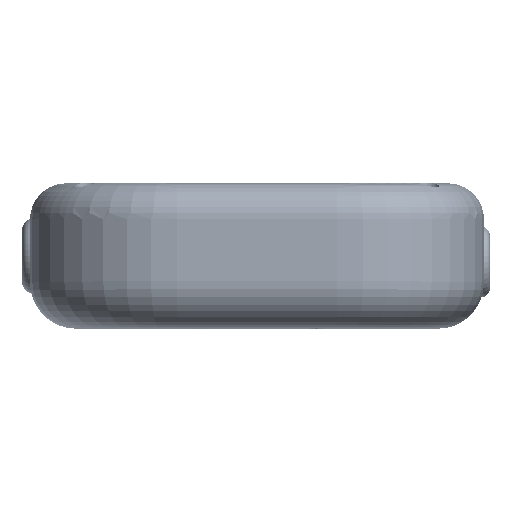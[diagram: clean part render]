
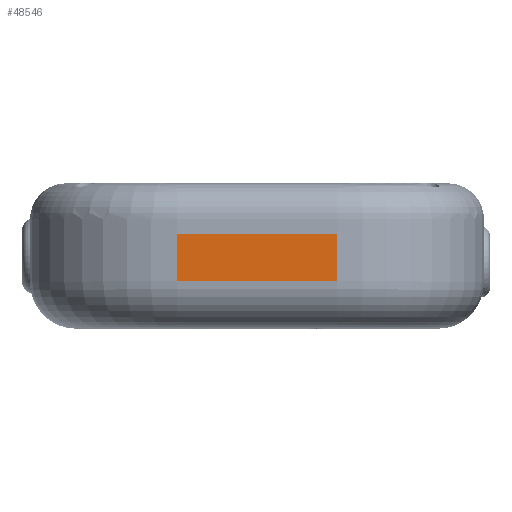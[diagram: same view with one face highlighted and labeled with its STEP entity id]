
A CAD part, top view. The second image highlights one B-rep face of the part: STEP entity #48546.
In plain terms, the highlighted planar face has unit normal (0, 0, 1).
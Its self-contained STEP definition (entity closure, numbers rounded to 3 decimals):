
#43469 = CYLINDRICAL_SURFACE('',#43470,9.2);
#43470 = AXIS2_PLACEMENT_3D('',#43471,#43472,#43473);
#43471 = CARTESIAN_POINT('',(16.,-5.2,67.));
#43472 = DIRECTION('',(-1.,-0.,-0.));
#43473 = DIRECTION('',(0.,-1.,0.));
#43993 = VERTEX_POINT('',#43994);
#43994 = CARTESIAN_POINT('',(-16.,-5.2,76.2));
#44009 = CYLINDRICAL_SURFACE('',#44010,29.2);
#44010 = AXIS2_PLACEMENT_3D('',#44011,#44012,#44013);
#44011 = CARTESIAN_POINT('',(-16.,-14.4,47.));
#44012 = DIRECTION('',(0.,1.,0.));
#44013 = DIRECTION('',(-1.,0.,0.));
#44091 = PLANE('',#44092);
#44092 = AXIS2_PLACEMENT_3D('',#44093,#44094,#44095);
#44093 = CARTESIAN_POINT('',(0.,4.2,0.));
#44094 = DIRECTION('',(0.,1.,0.));
#44095 = DIRECTION('',(0.,-0.,1.));
#46229 = VERTEX_POINT('',#46230);
#46230 = CARTESIAN_POINT('',(16.,-5.2,76.2));
#46245 = CYLINDRICAL_SURFACE('',#46246,29.2);
#46246 = AXIS2_PLACEMENT_3D('',#46247,#46248,#46249);
#46247 = CARTESIAN_POINT('',(16.,-14.4,47.));
#46248 = DIRECTION('',(0.,1.,0.));
#46249 = DIRECTION('',(1.,0.,-0.));
#46283 = EDGE_CURVE('',#46229,#43993,#46284,.T.);
#46284 = SURFACE_CURVE('',#46285,(#46289,#46296),.PCURVE_S1.);
#46285 = LINE('',#46286,#46287);
#46286 = CARTESIAN_POINT('',(16.,-5.2,76.2));
#46287 = VECTOR('',#46288,1.);
#46288 = DIRECTION('',(-1.,-0.,-0.));
#46289 = PCURVE('',#43469,#46290);
#46290 = DEFINITIONAL_REPRESENTATION('',(#46291),#46295);
#46291 = LINE('',#46292,#46293);
#46292 = CARTESIAN_POINT('',(1.571,0.));
#46293 = VECTOR('',#46294,1.);
#46294 = DIRECTION('',(0.,1.));
#46295 = ( GEOMETRIC_REPRESENTATION_CONTEXT(2) 
PARAMETRIC_REPRESENTATION_CONTEXT() REPRESENTATION_CONTEXT('2D SPACE',''
  ) );
#46296 = PCURVE('',#46297,#46302);
#46297 = PLANE('',#46298);
#46298 = AXIS2_PLACEMENT_3D('',#46299,#46300,#46301);
#46299 = CARTESIAN_POINT('',(-45.2,-14.4,76.2));
#46300 = DIRECTION('',(0.,0.,1.));
#46301 = DIRECTION('',(1.,0.,-0.));
#46302 = DEFINITIONAL_REPRESENTATION('',(#46303),#46307);
#46303 = LINE('',#46304,#46305);
#46304 = CARTESIAN_POINT('',(61.2,9.2));
#46305 = VECTOR('',#46306,1.);
#46306 = DIRECTION('',(-1.,0.));
#46307 = ( GEOMETRIC_REPRESENTATION_CONTEXT(2) 
PARAMETRIC_REPRESENTATION_CONTEXT() REPRESENTATION_CONTEXT('2D SPACE',''
  ) );
#46694 = EDGE_CURVE('',#43993,#46695,#46697,.T.);
#46695 = VERTEX_POINT('',#46696);
#46696 = CARTESIAN_POINT('',(-16.,4.2,76.2));
#46697 = SURFACE_CURVE('',#46698,(#46702,#46709),.PCURVE_S1.);
#46698 = LINE('',#46699,#46700);
#46699 = CARTESIAN_POINT('',(-16.,-14.4,76.2));
#46700 = VECTOR('',#46701,1.);
#46701 = DIRECTION('',(0.,1.,0.));
#46702 = PCURVE('',#44009,#46703);
#46703 = DEFINITIONAL_REPRESENTATION('',(#46704),#46708);
#46704 = LINE('',#46705,#46706);
#46705 = CARTESIAN_POINT('',(1.571,0.));
#46706 = VECTOR('',#46707,1.);
#46707 = DIRECTION('',(0.,1.));
#46708 = ( GEOMETRIC_REPRESENTATION_CONTEXT(2) 
PARAMETRIC_REPRESENTATION_CONTEXT() REPRESENTATION_CONTEXT('2D SPACE',''
  ) );
#46709 = PCURVE('',#46297,#46710);
#46710 = DEFINITIONAL_REPRESENTATION('',(#46711),#46715);
#46711 = LINE('',#46712,#46713);
#46712 = CARTESIAN_POINT('',(29.2,0.));
#46713 = VECTOR('',#46714,1.);
#46714 = DIRECTION('',(0.,1.));
#46715 = ( GEOMETRIC_REPRESENTATION_CONTEXT(2) 
PARAMETRIC_REPRESENTATION_CONTEXT() REPRESENTATION_CONTEXT('2D SPACE',''
  ) );
#46746 = EDGE_CURVE('',#46747,#46695,#46749,.T.);
#46747 = VERTEX_POINT('',#46748);
#46748 = CARTESIAN_POINT('',(16.,4.2,76.2));
#46749 = SURFACE_CURVE('',#46750,(#46754,#46761),.PCURVE_S1.);
#46750 = LINE('',#46751,#46752);
#46751 = CARTESIAN_POINT('',(-22.6,4.2,76.2));
#46752 = VECTOR('',#46753,1.);
#46753 = DIRECTION('',(-1.,0.,0.));
#46754 = PCURVE('',#44091,#46755);
#46755 = DEFINITIONAL_REPRESENTATION('',(#46756),#46760);
#46756 = LINE('',#46757,#46758);
#46757 = CARTESIAN_POINT('',(76.2,-22.6));
#46758 = VECTOR('',#46759,1.);
#46759 = DIRECTION('',(0.,-1.));
#46760 = ( GEOMETRIC_REPRESENTATION_CONTEXT(2) 
PARAMETRIC_REPRESENTATION_CONTEXT() REPRESENTATION_CONTEXT('2D SPACE',''
  ) );
#46761 = PCURVE('',#46297,#46762);
#46762 = DEFINITIONAL_REPRESENTATION('',(#46763),#46767);
#46763 = LINE('',#46764,#46765);
#46764 = CARTESIAN_POINT('',(22.6,18.6));
#46765 = VECTOR('',#46766,1.);
#46766 = DIRECTION('',(-1.,0.));
#46767 = ( GEOMETRIC_REPRESENTATION_CONTEXT(2) 
PARAMETRIC_REPRESENTATION_CONTEXT() REPRESENTATION_CONTEXT('2D SPACE',''
  ) );
#48524 = EDGE_CURVE('',#46229,#46747,#48525,.T.);
#48525 = SURFACE_CURVE('',#48526,(#48530,#48537),.PCURVE_S1.);
#48526 = LINE('',#48527,#48528);
#48527 = CARTESIAN_POINT('',(16.,-14.4,76.2));
#48528 = VECTOR('',#48529,1.);
#48529 = DIRECTION('',(0.,1.,0.));
#48530 = PCURVE('',#46245,#48531);
#48531 = DEFINITIONAL_REPRESENTATION('',(#48532),#48536);
#48532 = LINE('',#48533,#48534);
#48533 = CARTESIAN_POINT('',(4.712,0.));
#48534 = VECTOR('',#48535,1.);
#48535 = DIRECTION('',(-0.,1.));
#48536 = ( GEOMETRIC_REPRESENTATION_CONTEXT(2) 
PARAMETRIC_REPRESENTATION_CONTEXT() REPRESENTATION_CONTEXT('2D SPACE',''
  ) );
#48537 = PCURVE('',#46297,#48538);
#48538 = DEFINITIONAL_REPRESENTATION('',(#48539),#48543);
#48539 = LINE('',#48540,#48541);
#48540 = CARTESIAN_POINT('',(61.2,0.));
#48541 = VECTOR('',#48542,1.);
#48542 = DIRECTION('',(0.,1.));
#48543 = ( GEOMETRIC_REPRESENTATION_CONTEXT(2) 
PARAMETRIC_REPRESENTATION_CONTEXT() REPRESENTATION_CONTEXT('2D SPACE',''
  ) );
#48546 = ADVANCED_FACE('',(#48547),#46297,.T.);
#48547 = FACE_BOUND('',#48548,.T.);
#48548 = EDGE_LOOP('',(#48549,#48550,#48551,#48552));
#48549 = ORIENTED_EDGE('',*,*,#46694,.F.);
#48550 = ORIENTED_EDGE('',*,*,#46283,.F.);
#48551 = ORIENTED_EDGE('',*,*,#48524,.T.);
#48552 = ORIENTED_EDGE('',*,*,#46746,.T.);
